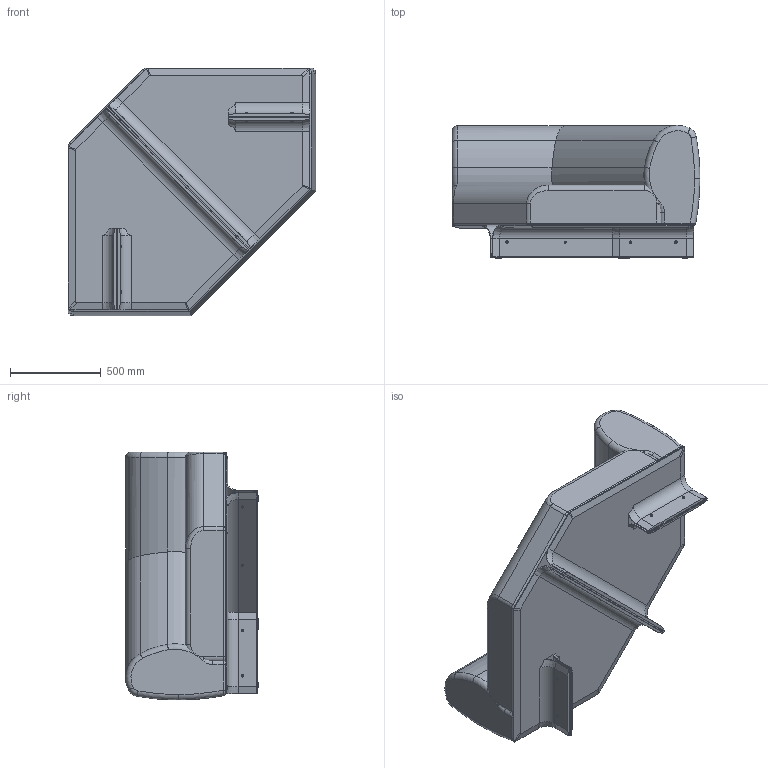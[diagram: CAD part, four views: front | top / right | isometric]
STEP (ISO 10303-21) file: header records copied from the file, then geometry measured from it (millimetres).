
FILE_DESCRIPTION (( 'STEP AP214' ), '1' );
FILE_NAME ('STAMI_SOFA_PLUS_ANGOLO_ASSIEME.STEP', '2024-06-05T16:54:11', ( '' ), ( '' ), 'SwSTEP 2.0', 'SolidWorks 2023', '' );
FILE_SCHEMA (( 'AUTOMOTIVE_DESIGN' ));
Length unit declared in the file: millimetre
Products named in the file (6): PIEDINO_L450; boccola_borchia M6; STAMI_SOFA_MODULARE_BASE_ANGOLO; STAMI_SOFA_PLUS_ANGOLO_ASSIEME; PIEDINO_1107; 20PT8X30N scivolo IPEA
Assembly tree (24 placements, depth 2):
  STAMI_SOFA_PLUS_ANGOLO_ASSIEME
    STAMI_SOFA_MODULARE_BASE_ANGOLO
    PIEDINO_L450  x2
    PIEDINO_1107
    20PT8X30N scivolo IPEA  x6
    boccola_borchia M6  x14
Bounding box: 1368.25 x 733.86 x 1368.25 mm (x, y, z)
Volume: 559371657.3 mm3; surface area: 10402013.8 mm2
Topology: 26 solids, 26 shells, 773 faces, 1801 edges, 1084 vertices
Faces by surface type: cylinder 339, plane 296, torus 72, cone 36, sphere 24, bspline 6
Entity records: 11461 total; most frequent: CARTESIAN_POINT 2574, DIRECTION 1909, ORIENTED_EDGE 1746, EDGE_CURVE 873, AXIS2_PLACEMENT_3D 714, VERTEX_POINT 532, VECTOR 481, LINE 481
